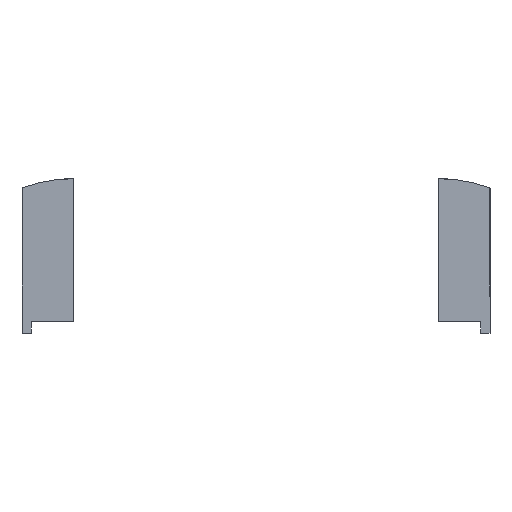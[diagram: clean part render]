
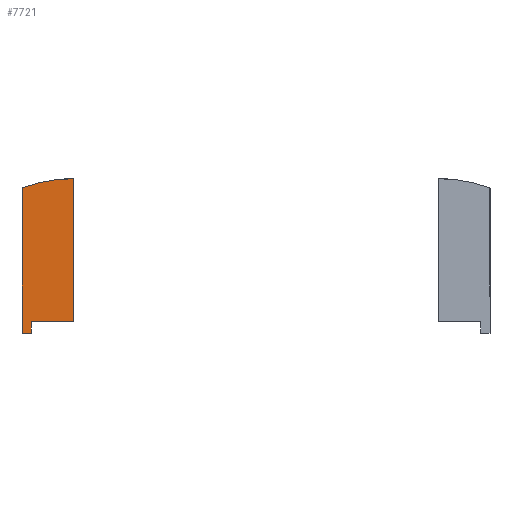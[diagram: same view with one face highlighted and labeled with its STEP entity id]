
A CAD part, left-side view. The second image highlights one B-rep face of the part: STEP entity #7721.
In plain terms, the highlighted planar face has unit normal (-1, 0, 0).
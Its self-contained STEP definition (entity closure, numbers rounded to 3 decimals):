
#3 = CARTESIAN_POINT ( 'NONE',  ( -103.5, 193.65, -6.939 ) ) ;
#105 = EDGE_CURVE ( 'NONE', #722, #8696, #7641, .T. ) ;
#256 = CARTESIAN_POINT ( 'NONE',  ( -103.5, 157.9, 125.599 ) ) ;
#573 = LINE ( 'NONE', #7179, #15080 ) ;
#678 = CARTESIAN_POINT ( 'NONE',  ( -103.5, 157.4, 125.6 ) ) ;
#722 = VERTEX_POINT ( 'NONE', #4324 ) ;
#759 = DIRECTION ( 'NONE',  ( 0., 0., 1. ) ) ;
#882 = CARTESIAN_POINT ( 'NONE',  ( -103.5, 201.4, -6.939 ) ) ;
#911 = CARTESIAN_POINT ( 'NONE',  ( -103.5, 157.4, 3.1 ) ) ;
#1225 = VERTEX_POINT ( 'NONE', #7920 ) ;
#1289 = DIRECTION ( 'NONE',  ( 0., -1., 0. ) ) ;
#1446 = FACE_OUTER_BOUND ( 'NONE', #1762, .T. ) ;
#1468 = DIRECTION ( 'NONE',  ( -1., 0., 0. ) ) ;
#1762 = EDGE_LOOP ( 'NONE', ( #10056, #10394, #14365, #14985, #15369, #16182, #5619, #15786 ) ) ;
#1922 = VERTEX_POINT ( 'NONE', #10712 ) ;
#2392 = DIRECTION ( 'NONE',  ( -1., 0., 0. ) ) ;
#2438 = EDGE_CURVE ( 'NONE', #15486, #1922, #10870, .T. ) ;
#2636 = DIRECTION ( 'NONE',  ( 0., 0., 1. ) ) ;
#3949 = EDGE_CURVE ( 'NONE', #5616, #9872, #4696, .T. ) ;
#4324 = CARTESIAN_POINT ( 'NONE',  ( -103.5, 193.65, 3.1 ) ) ;
#4696 = CIRCLE ( 'NONE', #12713, 0.5 ) ;
#4882 = CARTESIAN_POINT ( 'NONE',  ( -103.5, 157.4, 1.1 ) ) ;
#5616 = VERTEX_POINT ( 'NONE', #10254 ) ;
#5619 = ORIENTED_EDGE ( 'NONE', *, *, #8455, .T. ) ;
#5686 = DIRECTION ( 'NONE',  ( 0., 0., -1. ) ) ;
#6199 = VECTOR ( 'NONE', #8088, 1000. ) ;
#6228 = CIRCLE ( 'NONE', #15796, 0.5 ) ;
#6737 = DIRECTION ( 'NONE',  ( 0., -1., 0. ) ) ;
#6783 = CARTESIAN_POINT ( 'NONE',  ( -103.5, 201.4, 117.753 ) ) ;
#6924 = DIRECTION ( 'NONE',  ( -1., 0., 0. ) ) ;
#7179 = CARTESIAN_POINT ( 'NONE',  ( -103.5, 157.4, 125.6 ) ) ;
#7243 = VECTOR ( 'NONE', #6737, 1000. ) ;
#7344 = EDGE_CURVE ( 'NONE', #10257, #1225, #6228, .T. ) ;
#7641 = LINE ( 'NONE', #11887, #7243 ) ;
#7721 = ADVANCED_FACE ( 'NONE', ( #1446 ), #8837, .T. ) ;
#7920 = CARTESIAN_POINT ( 'NONE',  ( -103.5, 157.902, 126.099 ) ) ;
#8088 = DIRECTION ( 'NONE',  ( 0., -1., 0. ) ) ;
#8455 = EDGE_CURVE ( 'NONE', #8696, #10257, #573, .T. ) ;
#8572 = DIRECTION ( 'NONE',  ( 0., -1., 0. ) ) ;
#8637 = CIRCLE ( 'NONE', #14522, 125. ) ;
#8696 = VERTEX_POINT ( 'NONE', #911 ) ;
#8837 = PLANE ( 'NONE',  #8913 ) ;
#8913 = AXIS2_PLACEMENT_3D ( 'NONE', #4882, #2392, #1289 ) ;
#9159 = LINE ( 'NONE', #3, #15979 ) ;
#9872 = VERTEX_POINT ( 'NONE', #14869 ) ;
#10056 = ORIENTED_EDGE ( 'NONE', *, *, #15927, .T. ) ;
#10254 = CARTESIAN_POINT ( 'NONE',  ( -103.5, 201.075, 118.222 ) ) ;
#10257 = VERTEX_POINT ( 'NONE', #678 ) ;
#10319 = DIRECTION ( 'NONE',  ( 0., -1., 0. ) ) ;
#10394 = ORIENTED_EDGE ( 'NONE', *, *, #3949, .T. ) ;
#10712 = CARTESIAN_POINT ( 'NONE',  ( -103.5, 193.65, -6.939 ) ) ;
#10870 = LINE ( 'NONE', #15396, #6199 ) ;
#11887 = CARTESIAN_POINT ( 'NONE',  ( -103.5, 193.65, 3.1 ) ) ;
#12182 = LINE ( 'NONE', #6783, #13752 ) ;
#12713 = AXIS2_PLACEMENT_3D ( 'NONE', #14990, #13728, #8572 ) ;
#13158 = CARTESIAN_POINT ( 'NONE',  ( -103.5, 157.4, 1.1 ) ) ;
#13215 = DIRECTION ( 'NONE',  ( 0., -1., 0. ) ) ;
#13728 = DIRECTION ( 'NONE',  ( -1., 0., 0. ) ) ;
#13752 = VECTOR ( 'NONE', #5686, 1000. ) ;
#14135 = EDGE_CURVE ( 'NONE', #1922, #722, #9159, .T. ) ;
#14365 = ORIENTED_EDGE ( 'NONE', *, *, #15097, .T. ) ;
#14522 = AXIS2_PLACEMENT_3D ( 'NONE', #13158, #6924, #13215 ) ;
#14869 = CARTESIAN_POINT ( 'NONE',  ( -103.5, 201.4, 117.753 ) ) ;
#14985 = ORIENTED_EDGE ( 'NONE', *, *, #2438, .T. ) ;
#14990 = CARTESIAN_POINT ( 'NONE',  ( -103.5, 200.9, 117.753 ) ) ;
#15080 = VECTOR ( 'NONE', #759, 1000. ) ;
#15097 = EDGE_CURVE ( 'NONE', #9872, #15486, #12182, .T. ) ;
#15369 = ORIENTED_EDGE ( 'NONE', *, *, #14135, .T. ) ;
#15396 = CARTESIAN_POINT ( 'NONE',  ( -103.5, 201.4, -6.939 ) ) ;
#15486 = VERTEX_POINT ( 'NONE', #882 ) ;
#15786 = ORIENTED_EDGE ( 'NONE', *, *, #7344, .T. ) ;
#15796 = AXIS2_PLACEMENT_3D ( 'NONE', #256, #1468, #10319 ) ;
#15927 = EDGE_CURVE ( 'NONE', #1225, #5616, #8637, .T. ) ;
#15979 = VECTOR ( 'NONE', #2636, 1000. ) ;
#16182 = ORIENTED_EDGE ( 'NONE', *, *, #105, .T. ) ;
